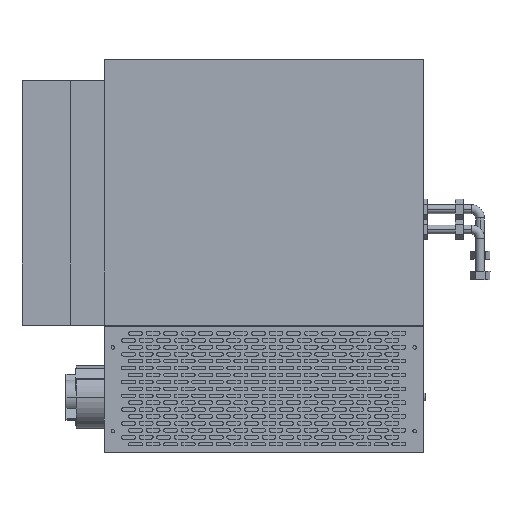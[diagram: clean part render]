
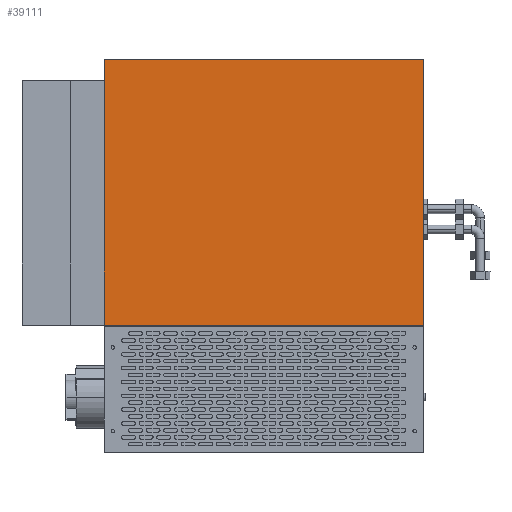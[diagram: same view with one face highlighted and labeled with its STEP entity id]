
A CAD part, top view. The second image highlights one B-rep face of the part: STEP entity #39111.
In plain terms, the highlighted planar face has unit normal (0, 0, 1).
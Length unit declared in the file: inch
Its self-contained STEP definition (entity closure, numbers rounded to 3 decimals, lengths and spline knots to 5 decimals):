
#1816 = CARTESIAN_POINT ( 'NONE',  ( -9., 7.164, 2.5625 ) ) ;
#6016 = EDGE_CURVE ( 'NONE', #35159, #65057, #18473, .T. ) ;
#7018 = VERTEX_POINT ( 'NONE', #52867 ) ;
#10706 = ORIENTED_EDGE ( 'NONE', *, *, #42802, .F. ) ;
#10751 = EDGE_LOOP ( 'NONE', ( #45541, #61695, #56346, #10706 ) ) ;
#15123 = DIRECTION ( 'NONE',  ( 1., 0., 0. ) ) ;
#18095 = DIRECTION ( 'NONE',  ( -1., 0., 0. ) ) ;
#18473 = LINE ( 'NONE', #1816, #30439 ) ;
#20659 = PLANE ( 'NONE',  #72384 ) ;
#22079 = VECTOR ( 'NONE', #57651, 39.37008 ) ;
#27629 = DIRECTION ( 'NONE',  ( 0., 0., -1. ) ) ;
#30037 = VECTOR ( 'NONE', #15123, 39.37008 ) ;
#30439 = VECTOR ( 'NONE', #18095, 39.37008 ) ;
#30496 = CARTESIAN_POINT ( 'NONE',  ( 9., 7.164, 2.5625 ) ) ;
#31735 = FACE_OUTER_BOUND ( 'NONE', #10751, .T. ) ;
#32813 = DIRECTION ( 'NONE',  ( -1., 0., 0. ) ) ;
#35159 = VERTEX_POINT ( 'NONE', #30496 ) ;
#37285 = CARTESIAN_POINT ( 'NONE',  ( -9., 22.125, 2.5625 ) ) ;
#38766 = LINE ( 'NONE', #43223, #30037 ) ;
#39111 = ADVANCED_FACE ( 'NONE', ( #31735 ), #20659, .F. ) ;
#40621 = LINE ( 'NONE', #46165, #22079 ) ;
#41164 = DIRECTION ( 'NONE',  ( 0., -1., 0. ) ) ;
#42802 = EDGE_CURVE ( 'NONE', #43874, #7018, #38766, .T. ) ;
#43223 = CARTESIAN_POINT ( 'NONE',  ( -9., 22.125, 2.5625 ) ) ;
#43874 = VERTEX_POINT ( 'NONE', #70255 ) ;
#45257 = CARTESIAN_POINT ( 'NONE',  ( -9., 22.125, 2.5625 ) ) ;
#45541 = ORIENTED_EDGE ( 'NONE', *, *, #46870, .T. ) ;
#46165 = CARTESIAN_POINT ( 'NONE',  ( 9., 22.125, 2.5625 ) ) ;
#46870 = EDGE_CURVE ( 'NONE', #43874, #65057, #57090, .T. ) ;
#48473 = VECTOR ( 'NONE', #41164, 39.37008 ) ;
#52867 = CARTESIAN_POINT ( 'NONE',  ( 9., 22.125, 2.5625 ) ) ;
#56346 = ORIENTED_EDGE ( 'NONE', *, *, #72536, .F. ) ;
#57090 = LINE ( 'NONE', #45257, #48473 ) ;
#57651 = DIRECTION ( 'NONE',  ( 0., -1., 0. ) ) ;
#60549 = CARTESIAN_POINT ( 'NONE',  ( -9., 7.164, 2.5625 ) ) ;
#61695 = ORIENTED_EDGE ( 'NONE', *, *, #6016, .F. ) ;
#65057 = VERTEX_POINT ( 'NONE', #60549 ) ;
#70255 = CARTESIAN_POINT ( 'NONE',  ( -9., 22.125, 2.5625 ) ) ;
#72384 = AXIS2_PLACEMENT_3D ( 'NONE', #37285, #27629, #32813 ) ;
#72536 = EDGE_CURVE ( 'NONE', #7018, #35159, #40621, .T. ) ;
